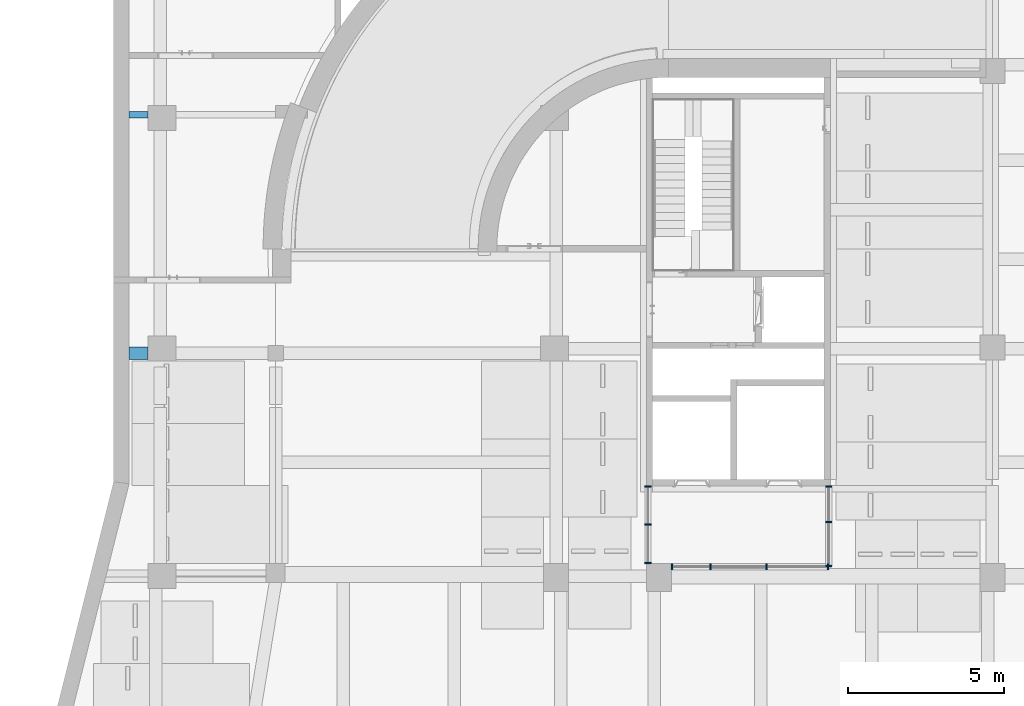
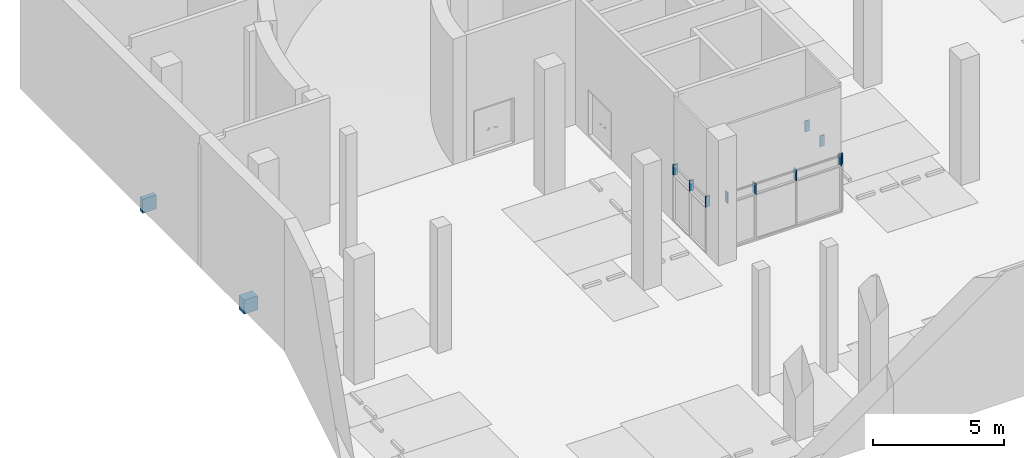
# One storey, part 5 of 29: 10 members, 2 beams, 3 elements without a shape of their own.
"""IFC2X3 building model written with IfcOpenShell, lengths in millimetres."""

from ifc_helpers import new_model, entity, si_unit, converted_unit, derived_unit, direction, frame, frame_2d, origin, origin_2d_with_axis, place, context, subcontext, project, spatial, rectangle, extrude, source, transform, mapped, material, type_object, type_shapes, element, aggregate, save


model = new_model("IFC2X3")

# Units and contexts
model_context = context("Model", 3, precision=0.01, world=origin(), true_north=direction((6.123031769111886e-17, 1.0)))
body_context = subcontext(model_context, "Body", "Model", "MODEL_VIEW")
ifc_project = project(units=[si_unit("LENGTHUNIT", "METRE", prefix="MILLI"), si_unit("AREAUNIT", "SQUARE_METRE"), si_unit("VOLUMEUNIT", "CUBIC_METRE"), converted_unit("PLANEANGLEUNIT", "DEGREE", entity("IfcRatioMeasure", 0.017453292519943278), si_unit("PLANEANGLEUNIT", "RADIAN"), dimensions=[0, 0, 0, 0, 0, 0, 0]), si_unit("MASSUNIT", "GRAM", prefix="KILO"), derived_unit("MASSDENSITYUNIT", [(si_unit("MASSUNIT", "GRAM", prefix="KILO"), 1), (si_unit("LENGTHUNIT", "METRE"), -3)]), derived_unit("MOMENTOFINERTIAUNIT", [(si_unit("LENGTHUNIT", "METRE"), 4)]), si_unit("TIMEUNIT", "SECOND"), si_unit("FREQUENCYUNIT", "HERTZ"), si_unit("THERMODYNAMICTEMPERATUREUNIT", "DEGREE_CELSIUS"), derived_unit("THERMALTRANSMITTANCEUNIT", [(si_unit("MASSUNIT", "GRAM", prefix="KILO"), 1), (si_unit("THERMODYNAMICTEMPERATUREUNIT", "KELVIN"), -1), (si_unit("TIMEUNIT", "SECOND"), -3)]), derived_unit("VOLUMETRICFLOWRATEUNIT", [(si_unit("LENGTHUNIT", "METRE"), 3), (si_unit("TIMEUNIT", "SECOND"), -1)]), derived_unit("MASSFLOWRATEUNIT", [(si_unit("MASSUNIT", "GRAM", prefix="KILO"), 1), (si_unit("TIMEUNIT", "SECOND"), -1)]), derived_unit("ROTATIONALFREQUENCYUNIT", [(si_unit("TIMEUNIT", "SECOND"), -1)]), si_unit("ELECTRICCURRENTUNIT", "AMPERE"), si_unit("ELECTRICVOLTAGEUNIT", "VOLT"), si_unit("POWERUNIT", "WATT"), si_unit("FORCEUNIT", "NEWTON", prefix="KILO"), si_unit("ILLUMINANCEUNIT", "LUX"), si_unit("LUMINOUSFLUXUNIT", "LUMEN"), si_unit("LUMINOUSINTENSITYUNIT", "CANDELA"), derived_unit("USERDEFINED", [(si_unit("MASSUNIT", "GRAM", prefix="KILO"), -1), (si_unit("LENGTHUNIT", "METRE"), -2), (si_unit("TIMEUNIT", "SECOND"), 3), (si_unit("LUMINOUSFLUXUNIT", "LUMEN"), 1)]), derived_unit("SOUNDPOWERUNIT", [(si_unit("MASSUNIT", "GRAM", prefix="KILO"), 1), (si_unit("LENGTHUNIT", "METRE"), 2), (si_unit("TIMEUNIT", "SECOND"), -3)]), derived_unit("SOUNDPRESSUREUNIT", [(si_unit("MASSUNIT", "GRAM", prefix="KILO"), 1), (si_unit("LENGTHUNIT", "METRE"), -1), (si_unit("TIMEUNIT", "SECOND"), -2)]), derived_unit("LINEARVELOCITYUNIT", [(si_unit("LENGTHUNIT", "METRE"), 1), (si_unit("TIMEUNIT", "SECOND"), -1)]), si_unit("PRESSUREUNIT", "PASCAL"), derived_unit("USERDEFINED", [(si_unit("LENGTHUNIT", "METRE"), -2), (si_unit("MASSUNIT", "GRAM", prefix="KILO"), 1), (si_unit("TIMEUNIT", "SECOND"), -2)]), derived_unit("LINEARFORCEUNIT", [(si_unit("MASSUNIT", "GRAM", prefix="KILO"), 1), (si_unit("LENGTHUNIT", "METRE"), 1), (si_unit("TIMEUNIT", "SECOND"), -2), (si_unit("LENGTHUNIT", "METRE"), -1)]), derived_unit("PLANARFORCEUNIT", [(si_unit("MASSUNIT", "GRAM", prefix="KILO"), 1), (si_unit("LENGTHUNIT", "METRE"), 1), (si_unit("TIMEUNIT", "SECOND"), -2), (si_unit("LENGTHUNIT", "METRE"), -2)])], contexts=[model_context])

# Site, building, storey
site_placement = place(None, frame((-14167.972527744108, -657.2125860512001, 0.0)))
site = spatial("IfcSite", under=ifc_project, at=site_placement, Name="Default", CompositionType="ELEMENT")
building_placement = place(site_placement, origin())
building = spatial("IfcBuilding", under=site, at=building_placement, Name="Sample Building", CompositionType="ELEMENT")
storey_placement = place(building_placement, frame((0.0, 0.0, -6100.0)))
storey = spatial("IfcBuildingStorey", under=building, at=storey_placement, Name="지하1층", CompositionType="ELEMENT", Elevation=-6099.999999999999)

# Curtain wall, members
curtain_wall_type = type_object("IfcCurtainWallType", Name="커튼월:CW112-스테인리스 스틸 커튼월", PredefinedType="NOTDEFINED")
curtain_wall_1_placement = place(storey_placement, frame((0.0, 0.0, 6100.0)))
curtain_wall_1 = element("IfcCurtainWall", 1, at=curtain_wall_1_placement, inside=storey, type_object=curtain_wall_type, Name="커튼월:CW112-스테인리스 스틸 커튼월", ObjectType="커튼월:CW112-스테인리스 스틸 커튼월")
ifc_material_1 = material(Name="<Unnamed>")
member_type_1 = type_object("IfcMemberType", Name="직사각형 멀리언:CW200-직사각형 멀리언 50x200mm", PredefinedType="MULLION", material=ifc_material_1)
shared_shape_1 = source(origin(), body_context, "Body", "SweptSolid", [
    extrude(rectangle(XDim=200.0, YDim=50.0, at=origin_2d_with_axis()), frame((-25.0, 0.0, -500.0), z_axis=(0.0, 0.0, 1.0), x_axis=(0.0, -1.0, 0.0)), (0.0, 0.0, 1.0), 500.00000000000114),
])
type_shapes(member_type_1, [shared_shape_1])
member_1_placement = place(curtain_wall_1_placement, frame((30116.125814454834, 15553.302947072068, -3300.0), z_axis=(0.0, 0.0, 1.0), x_axis=(0.0, 1.0, 0.0)))
member_1 = element("IfcMember", 2, at=member_1_placement, type_object=member_type_1, material=ifc_material_1, Name="직사각형 멀리언:CW200-직사각형 멀리언 50x200mm", ObjectType="직사각형 멀리언:CW200-직사각형 멀리언 50x200mm", context=body_context, shape_type="MappedRepresentation", body=[
    mapped(shared_shape_1, transform((0.0, 0.0, 0.0), scale=1.0)),
])
member_type_2 = type_object("IfcMemberType", Name="직사각형 멀리언:CW200-직사각형 멀리언 50x200mm", PredefinedType="MULLION", material=ifc_material_1)
shared_shape_2 = source(origin(), body_context, "Body", "SweptSolid", [
    extrude(rectangle(XDim=200.0, YDim=50.0, at=origin_2d_with_axis()), frame((-25.0, 0.0, -500.0), z_axis=(0.0, 0.0, 1.0), x_axis=(0.0, -1.0, 0.0)), (0.0, 0.0, 1.0), 500.00000000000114),
])
type_shapes(member_type_2, [shared_shape_2])
member_2_placement = place(curtain_wall_1_placement, frame((30116.12581445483, 13057.212307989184, -3800.0), z_axis=(0.0, 0.0, -1.0), x_axis=(0.0, -1.0, 0.0)))
member_2 = element("IfcMember", 3, at=member_2_placement, type_object=member_type_2, material=ifc_material_1, Name="직사각형 멀리언:CW200-직사각형 멀리언 50x200mm", ObjectType="직사각형 멀리언:CW200-직사각형 멀리언 50x200mm", context=body_context, shape_type="MappedRepresentation", body=[
    mapped(shared_shape_2, transform((0.0, 0.0, 0.0), scale=1.0)),
])
member_type_3 = type_object("IfcMemberType", Name="직사각형 멀리언:CW200-직사각형 멀리언 50x200mm", PredefinedType="MULLION", material=ifc_material_1)
shared_shape_3 = source(origin(), body_context, "Body", "SweptSolid", [
    extrude(rectangle(XDim=200.0, YDim=50.0, at=origin_2d_with_axis()), frame((0.0, 0.0, -500.0), z_axis=(0.0, 0.0, 1.0), x_axis=(0.0, -1.0, 0.0)), (0.0, 0.0, 1.0), 500.00000000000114),
])
type_shapes(member_type_3, [shared_shape_3])
member_3_placement = place(curtain_wall_1_placement, frame((30116.12581445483, 14305.257627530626, -3800.0), z_axis=(0.0, 0.0, -1.0), x_axis=(0.0, -1.0, 0.0)))
member_3 = element("IfcMember", 4, at=member_3_placement, type_object=member_type_3, material=ifc_material_1, Name="직사각형 멀리언:CW200-직사각형 멀리언 50x200mm", ObjectType="직사각형 멀리언:CW200-직사각형 멀리언 50x200mm", context=body_context, shape_type="MappedRepresentation", body=[
    mapped(shared_shape_3, transform((0.0, 0.0, 0.0), scale=1.0)),
])
aggregate(curtain_wall_1, [member_1, member_2, member_3])

# Curtain wall, member
curtain_wall_2_placement = place(storey_placement, frame((0.0, 0.0, 6100.0)))
curtain_wall_2 = element("IfcCurtainWall", 5, at=curtain_wall_2_placement, inside=storey, type_object=curtain_wall_type, Name="커튼월:CW112-스테인리스 스틸 커튼월", ObjectType="커튼월:CW112-스테인리스 스틸 커튼월")
member_type_4 = type_object("IfcMemberType", Name="직사각형 멀리언:CW200-직사각형 멀리언 50x200mm", PredefinedType="MULLION", material=ifc_material_1)
shared_shape_4 = source(origin(), body_context, "Body", "SweptSolid", [
    extrude(rectangle(XDim=200.0, YDim=50.0, at=origin_2d_with_axis()), frame((-25.0, 0.0, -500.0), z_axis=(0.0, 0.0, 1.0), x_axis=(0.0, -1.0, 0.0)), (0.0, 0.0, 1.0), 500.00000000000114),
])
type_shapes(member_type_4, [shared_shape_4])
member_4_placement = place(curtain_wall_2_placement, frame((30867.97249113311, 12957.21258605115, -3300.0), z_axis=(0.0, 0.0, 1.0), x_axis=(-1.0, 0.0, 0.0)))
member_4 = element("IfcMember", 6, at=member_4_placement, type_object=member_type_4, material=ifc_material_1, Name="직사각형 멀리언:CW200-직사각형 멀리언 50x200mm", ObjectType="직사각형 멀리언:CW200-직사각형 멀리언 50x200mm", context=body_context, shape_type="MappedRepresentation", body=[
    mapped(shared_shape_4, transform((0.0, 0.0, 0.0), scale=1.0)),
])

curtain_wall_3_placement = place(storey_placement, frame((0.0, 0.0, 6100.0)))
curtain_wall_3 = element("IfcCurtainWall", 7, at=curtain_wall_3_placement, inside=storey, type_object=curtain_wall_type, Name="커튼월:CW112-스테인리스 스틸 커튼월", ObjectType="커튼월:CW112-스테인리스 스틸 커튼월")
member_5_placement = place(curtain_wall_3_placement, frame((35917.97249113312, 15553.302947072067, -3300.0), z_axis=(0.0, 0.0, 1.0), x_axis=(0.0, 1.0, 0.0)))
member_5 = element("IfcMember", 8, at=member_5_placement, type_object=member_type_4, material=ifc_material_1, Name="직사각형 멀리언:CW200-직사각형 멀리언 50x200mm", ObjectType="직사각형 멀리언:CW200-직사각형 멀리언 50x200mm", context=body_context, shape_type="MappedRepresentation", body=[
    mapped(shared_shape_4, transform((0.0, 0.0, 0.0), scale=1.0)),
])

# Member
member_type_5 = type_object("IfcMemberType", Name="직사각형 멀리언:CW200-직사각형 멀리언 50x200mm", PredefinedType="MULLION", material=ifc_material_1)
shared_shape_5 = source(origin(), body_context, "Body", "SweptSolid", [
    extrude(rectangle(XDim=200.0, YDim=50.0, at=origin_2d_with_axis()), frame((-25.0, 0.0, -500.0), z_axis=(0.0, 0.0, 1.0), x_axis=(0.0, -1.0, 0.0)), (0.0, 0.0, 1.0), 500.00000000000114),
])
type_shapes(member_type_5, [shared_shape_5])
member_6_placement = place(curtain_wall_2_placement, frame((35917.97249113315, 12957.212586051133, -3800.0), z_axis=(0.0, 0.0, -1.0), x_axis=(1.0, 0.0, 0.0)))
member_6 = element("IfcMember", 9, at=member_6_placement, type_object=member_type_5, material=ifc_material_1, Name="직사각형 멀리언:CW200-직사각형 멀리언 50x200mm", ObjectType="직사각형 멀리언:CW200-직사각형 멀리언 50x200mm", context=body_context, shape_type="MappedRepresentation", body=[
    mapped(shared_shape_5, transform((0.0, 0.0, 0.0), scale=1.0)),
])

member_7_placement = place(curtain_wall_3_placement, frame((35917.972491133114, 12957.212586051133, -3800.0), z_axis=(0.0, 0.0, -1.0), x_axis=(0.0, -1.0, 0.0)))
member_7 = element("IfcMember", 10, at=member_7_placement, type_object=member_type_5, material=ifc_material_1, Name="직사각형 멀리언:CW200-직사각형 멀리언 50x200mm", ObjectType="직사각형 멀리언:CW200-직사각형 멀리언 50x200mm", context=body_context, shape_type="MappedRepresentation", body=[
    mapped(shared_shape_5, transform((0.0, 0.0, 0.0), scale=1.0)),
])

member_type_6 = type_object("IfcMemberType", Name="직사각형 멀리언:CW200-직사각형 멀리언 50x200mm", PredefinedType="MULLION", material=ifc_material_1)
shared_shape_6 = source(origin(), body_context, "Body", "SweptSolid", [
    extrude(rectangle(XDim=200.0, YDim=50.0, at=origin_2d_with_axis()), frame((0.0, 0.0, -500.0), z_axis=(0.0, 0.0, 1.0), x_axis=(0.0, -1.0, 0.0)), (0.0, 0.0, 1.0), 500.00000000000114),
])
type_shapes(member_type_6, [shared_shape_6])
member_8_placement = place(curtain_wall_2_placement, frame((32117.97249113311, 12957.212586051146, -3800.0), z_axis=(0.0, 0.0, -1.0), x_axis=(1.0, 0.0, 0.0)))
member_8 = element("IfcMember", 11, at=member_8_placement, type_object=member_type_6, material=ifc_material_1, Name="직사각형 멀리언:CW200-직사각형 멀리언 50x200mm", ObjectType="직사각형 멀리언:CW200-직사각형 멀리언 50x200mm", context=body_context, shape_type="MappedRepresentation", body=[
    mapped(shared_shape_6, transform((0.0, 0.0, 0.0), scale=1.0)),
])

member_9_placement = place(curtain_wall_2_placement, frame((33917.97249113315, 12957.21258605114, -3800.0), z_axis=(0.0, 0.0, -1.0), x_axis=(1.0, 0.0, 0.0)))
member_9 = element("IfcMember", 12, at=member_9_placement, type_object=member_type_6, material=ifc_material_1, Name="직사각형 멀리언:CW200-직사각형 멀리언 50x200mm", ObjectType="직사각형 멀리언:CW200-직사각형 멀리언 50x200mm", context=body_context, shape_type="MappedRepresentation", body=[
    mapped(shared_shape_6, transform((0.0, 0.0, 0.0), scale=1.0)),
])

aggregate(curtain_wall_2, [member_4, member_6, member_8, member_9])

member_10_placement = place(curtain_wall_3_placement, frame((35917.97249113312, 14386.618274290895, -3800.0), z_axis=(0.0, 0.0, -1.0), x_axis=(0.0, -1.0, 0.0)))
member_10 = element("IfcMember", 13, at=member_10_placement, type_object=member_type_6, material=ifc_material_1, Name="직사각형 멀리언:CW200-직사각형 멀리언 50x200mm", ObjectType="직사각형 멀리언:CW200-직사각형 멀리언 50x200mm", context=body_context, shape_type="MappedRepresentation", body=[
    mapped(shared_shape_6, transform((0.0, 0.0, 0.0), scale=1.0)),
])

aggregate(curtain_wall_3, [member_5, member_7, member_10])

# Beams
ifc_material_2 = material(Name="KBIMS-콘크리트")
beam_type = type_object("IfcBeamType", Name="BM111-철근콘크리트구조 보:BM110-철근 콘크리트구조 보_400 x 850_B1-1G3", PredefinedType="NOTDEFINED")
beam_1_placement = place(storey_placement, frame((14467.955105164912, 19807.21261703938, 0.0), z_axis=(0.0, 0.0, 1.0), x_axis=(-1.0, 0.0, 0.0)))
element("IfcBeam", 14, at=beam_1_placement, inside=storey, type_object=beam_type, material=ifc_material_2, Name="BM111-철근콘크리트구조 보:BM110-철근 콘크리트구조 보_400 x 850_B1-1G3", ObjectType="BM111-철근콘크리트구조 보:BM110-철근 콘크리트구조 보_400 x 850_B1-1G3", context=body_context, shape_type="SweptSolid", body=[
    extrude(rectangle(XDim=650.0000000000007, YDim=400.0000000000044, at=frame_2d((5.400124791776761e-13, 0.0), x_axis=(1.0, 0.0))), frame((400.0, 0.0, -525.0), z_axis=(1.0, 0.0, 0.0), x_axis=(0.0, 0.0, -1.0)), (0.0, 0.0, 1.0), 599.9826140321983),
])
beam_2_placement = place(storey_placement, frame((14467.955105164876, 27557.212617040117, 0.0), z_axis=(0.0, 0.0, 1.0), x_axis=(-1.0, 0.0, 0.0)))
element("IfcBeam", 15, at=beam_2_placement, inside=storey, type_object=beam_type, material=ifc_material_2, Name="BM111-철근콘크리트구조 보:BM110-철근 콘크리트구조 보_400 x 850_B1-1G3", ObjectType="BM111-철근콘크리트구조 보:BM110-철근 콘크리트구조 보_400 x 850_B1-1G3", context=body_context, shape_type="SweptSolid", body=[
    extrude(rectangle(XDim=650.0000000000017, YDim=199.9996909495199, at=frame_2d((1.0800249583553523e-12, -4.334310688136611e-12), x_axis=(1.0, 0.0))), frame((400.0000184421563, 100.00015452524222, -525.0), z_axis=(1.0, 0.0, 0.0), x_axis=(0.0, 0.0, -1.0)), (0.0, 0.0, 1.0), 599.9825955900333),
])

save(model, "model.ifc")
